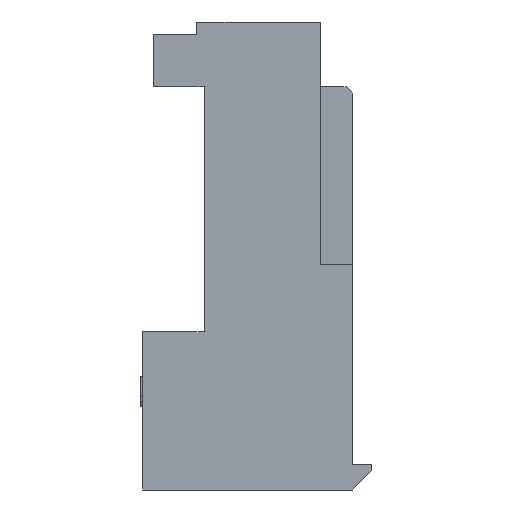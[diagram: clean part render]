
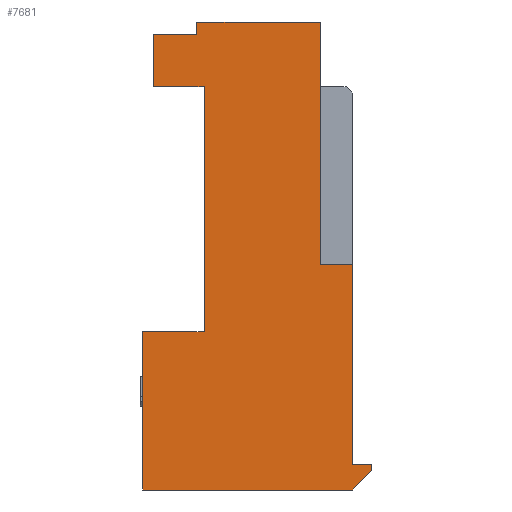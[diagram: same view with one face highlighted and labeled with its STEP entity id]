
A CAD part, left-side view. The second image highlights one B-rep face of the part: STEP entity #7681.
In plain terms, the highlighted planar face has unit normal (-1, 0, 0).
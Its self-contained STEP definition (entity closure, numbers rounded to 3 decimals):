
#72=DIRECTION('',(0.,-1.,0.));
#73=VECTOR('',#72,1.981);
#74=CARTESIAN_POINT('',(-9.906,3.937,-2.54));
#75=LINE('',#74,#73);
#76=DIRECTION('',(0.,0.,-1.));
#77=VECTOR('',#76,2.057);
#78=CARTESIAN_POINT('',(-9.906,3.937,-0.483));
#79=LINE('',#78,#77);
#80=DIRECTION('',(0.,1.,0.));
#81=VECTOR('',#80,1.702);
#82=CARTESIAN_POINT('',(-9.906,2.235,-0.483));
#83=LINE('',#82,#81);
#84=DIRECTION('',(0.,0.,-1.));
#85=VECTOR('',#84,0.483);
#86=CARTESIAN_POINT('',(-9.906,2.235,0.));
#87=LINE('',#86,#85);
#88=DIRECTION('',(0.,-1.,0.));
#89=VECTOR('',#88,1.27);
#90=CARTESIAN_POINT('',(-9.906,-2.616,-9.525));
#91=LINE('',#90,#89);
#92=DIRECTION('',(0.,0.,-1.));
#93=VECTOR('',#92,7.874);
#94=CARTESIAN_POINT('',(-9.906,-3.886,-9.525));
#95=LINE('',#94,#93);
#96=DIRECTION('',(0.,-1.,0.));
#97=VECTOR('',#96,0.762);
#98=CARTESIAN_POINT('',(-9.906,-3.886,-17.399));
#99=LINE('',#98,#97);
#100=DIRECTION('',(0.,0.,-1.));
#101=VECTOR('',#100,0.254);
#102=CARTESIAN_POINT('',(-9.906,-4.648,-17.399));
#103=LINE('',#102,#101);
#104=DIRECTION('',(0.,0.707,-0.707));
#105=VECTOR('',#104,1.078);
#106=CARTESIAN_POINT('',(-9.906,-4.648,-17.653));
#107=LINE('',#106,#105);
#108=DIRECTION('',(0.,1.,0.));
#109=VECTOR('',#108,8.255);
#110=CARTESIAN_POINT('',(-9.906,-3.886,-18.415));
#111=LINE('',#110,#109);
#112=DIRECTION('',(0.,0.,1.));
#113=VECTOR('',#112,6.223);
#114=CARTESIAN_POINT('',(-9.906,4.369,-18.415));
#115=LINE('',#114,#113);
#116=DIRECTION('',(0.,-1.,0.));
#117=VECTOR('',#116,2.413);
#118=CARTESIAN_POINT('',(-9.906,4.369,-12.192));
#119=LINE('',#118,#117);
#200=DIRECTION('',(0.,0.,-1.));
#201=VECTOR('',#200,9.652);
#202=CARTESIAN_POINT('',(-9.906,1.956,-2.54));
#203=LINE('',#202,#201);
#660=DIRECTION('',(0.,1.,0.));
#661=VECTOR('',#660,4.851);
#662=CARTESIAN_POINT('',(-9.906,-2.616,0.));
#663=LINE('',#662,#661);
#1628=DIRECTION('',(0.,0.,1.));
#1629=VECTOR('',#1628,9.525);
#1630=CARTESIAN_POINT('',(-9.906,-2.616,-9.525));
#1631=LINE('',#1630,#1629);
#5800=CARTESIAN_POINT('',(-9.906,-2.616,0.));
#5802=VERTEX_POINT('',#5800);
#5804=CARTESIAN_POINT('',(-9.906,-3.886,-17.399));
#5805=CARTESIAN_POINT('',(-9.906,-4.648,-17.399));
#5806=VERTEX_POINT('',#5804);
#5807=VERTEX_POINT('',#5805);
#5808=CARTESIAN_POINT('',(-9.906,-4.648,-17.653));
#5809=VERTEX_POINT('',#5808);
#5810=CARTESIAN_POINT('',(-9.906,-3.886,-18.415));
#5811=VERTEX_POINT('',#5810);
#5812=CARTESIAN_POINT('',(-9.906,4.369,-18.415));
#5813=VERTEX_POINT('',#5812);
#5814=CARTESIAN_POINT('',(-9.906,4.369,-12.192));
#5815=VERTEX_POINT('',#5814);
#5816=CARTESIAN_POINT('',(-9.906,1.956,-12.192));
#5817=VERTEX_POINT('',#5816);
#6142=CARTESIAN_POINT('',(-9.906,-2.616,-9.525));
#6143=CARTESIAN_POINT('',(-9.906,-3.886,-9.525));
#6144=VERTEX_POINT('',#6142);
#6145=VERTEX_POINT('',#6143);
#6216=CARTESIAN_POINT('',(-9.906,1.956,-2.54));
#6217=VERTEX_POINT('',#6216);
#6228=CARTESIAN_POINT('',(-9.906,2.235,-0.483));
#6229=CARTESIAN_POINT('',(-9.906,3.937,-0.483));
#6230=VERTEX_POINT('',#6228);
#6231=VERTEX_POINT('',#6229);
#6232=CARTESIAN_POINT('',(-9.906,3.937,-2.54));
#6233=VERTEX_POINT('',#6232);
#6234=CARTESIAN_POINT('',(-9.906,2.235,0.));
#6235=VERTEX_POINT('',#6234);
#7644=CARTESIAN_POINT('',(-9.906,0.,0.));
#7645=DIRECTION('',(1.,0.,0.));
#7646=DIRECTION('',(0.,0.,-1.));
#7647=AXIS2_PLACEMENT_3D('',#7644,#7645,#7646);
#7648=PLANE('',#7647);
#7650=ORIENTED_EDGE('',*,*,#7649,.F.);
#7652=ORIENTED_EDGE('',*,*,#7651,.F.);
#7654=ORIENTED_EDGE('',*,*,#7653,.F.);
#7656=ORIENTED_EDGE('',*,*,#7655,.F.);
#7658=ORIENTED_EDGE('',*,*,#7657,.F.);
#7660=ORIENTED_EDGE('',*,*,#7659,.F.);
#7662=ORIENTED_EDGE('',*,*,#7661,.F.);
#7664=ORIENTED_EDGE('',*,*,#7663,.T.);
#7666=ORIENTED_EDGE('',*,*,#7665,.T.);
#7668=ORIENTED_EDGE('',*,*,#7667,.T.);
#7670=ORIENTED_EDGE('',*,*,#7669,.T.);
#7672=ORIENTED_EDGE('',*,*,#7671,.T.);
#7674=ORIENTED_EDGE('',*,*,#7673,.T.);
#7676=ORIENTED_EDGE('',*,*,#7675,.T.);
#7678=ORIENTED_EDGE('',*,*,#7677,.T.);
#7679=EDGE_LOOP('',(#7650,#7652,#7654,#7656,#7658,#7660,#7662,#7664,#7666,#7668,
#7670,#7672,#7674,#7676,#7678));
#7680=FACE_OUTER_BOUND('',#7679,.F.);
#7681=ADVANCED_FACE('',(#7680),#7648,.F.);
#7649=EDGE_CURVE('',#6217,#5817,#203,.T.);
#7651=EDGE_CURVE('',#6233,#6217,#75,.T.);
#7653=EDGE_CURVE('',#6231,#6233,#79,.T.);
#7655=EDGE_CURVE('',#6230,#6231,#83,.T.);
#7657=EDGE_CURVE('',#6235,#6230,#87,.T.);
#7659=EDGE_CURVE('',#5802,#6235,#663,.T.);
#7661=EDGE_CURVE('',#6144,#5802,#1631,.T.);
#7663=EDGE_CURVE('',#6144,#6145,#91,.T.);
#7665=EDGE_CURVE('',#6145,#5806,#95,.T.);
#7667=EDGE_CURVE('',#5806,#5807,#99,.T.);
#7669=EDGE_CURVE('',#5807,#5809,#103,.T.);
#7671=EDGE_CURVE('',#5809,#5811,#107,.T.);
#7673=EDGE_CURVE('',#5811,#5813,#111,.T.);
#7675=EDGE_CURVE('',#5813,#5815,#115,.T.);
#7677=EDGE_CURVE('',#5815,#5817,#119,.T.);
